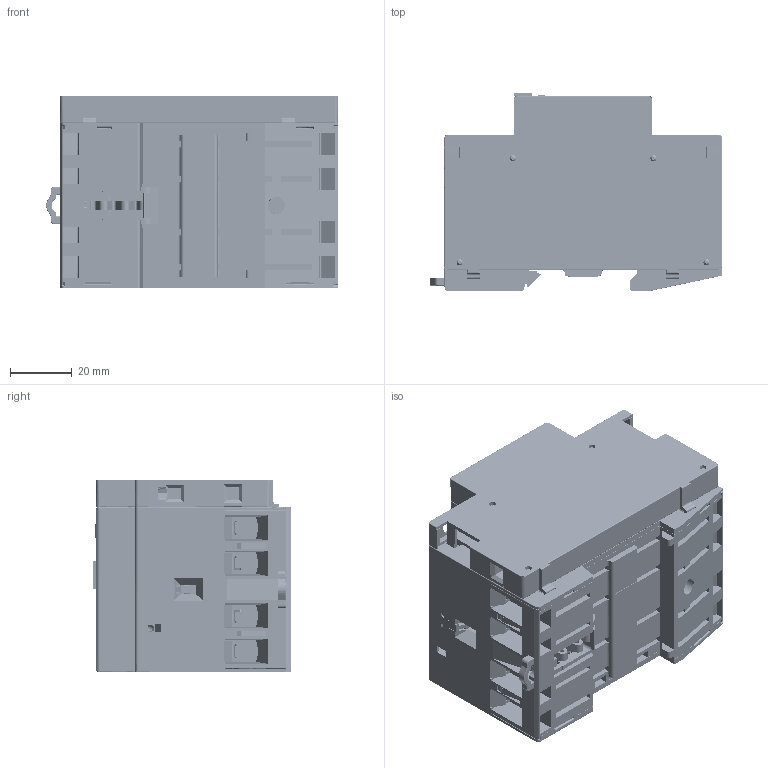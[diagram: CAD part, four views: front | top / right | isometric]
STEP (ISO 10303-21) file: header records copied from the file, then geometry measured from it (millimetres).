
FILE_DESCRIPTION(('STEP AP214'),'2;1');
FILE_NAME('22_x4_with_022_6x - dicembre 2019.stp','2019-12-04T14:29:43',(''),(''),'2007.1.106','THINKDESIGN','');
FILE_SCHEMA(('AUTOMOTIVE_DESIGN'));
Length unit declared in the file: millimetre
Products named in the file (1): top
Bounding box: 94.56 x 64.3 x 62.3 mm (x, y, z)
Volume: 2481.7 mm3; surface area: 161285.6 mm2
Topology: 16 solids, 16 shells, 6390 faces, 33169 edges, 32480 vertices
Faces by surface type: bspline 6390
Entity records: 230768 total; most frequent: CARTESIAN_POINT 136725, COMPOSITE_CURVE_SEGMENT 31002, QUASI_UNIFORM_CURVE 24106, STYLED_ITEM 5719, OUTER_BOUNDARY_CURVE 5631, CURVE_BOUNDED_SURFACE 5631, B_SPLINE_CURVE_WITH_KNOTS 5103, B_SPLINE_SURFACE_WITH_KNOTS 4868
